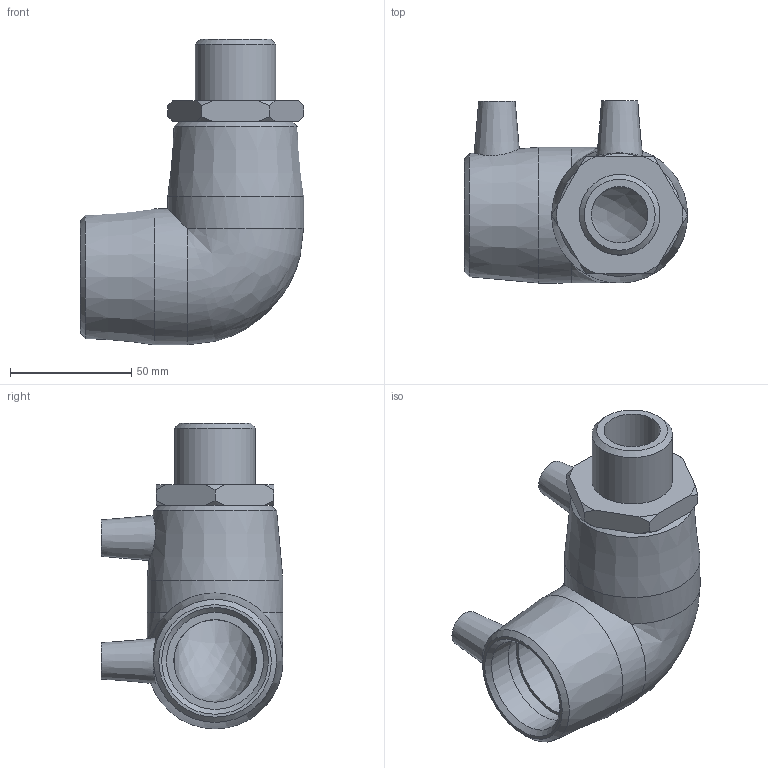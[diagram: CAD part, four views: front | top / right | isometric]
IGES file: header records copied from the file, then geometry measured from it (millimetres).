
Global section: file name: 492504040010.ipt; native system: Autodesk Inventor 2015; preprocessor: unknown; author: KIM; date: 20200202.122338; units: millimetre
Bounding box: 92 x 75 x 126 mm (x, y, z)
Volume: 196795.7 mm3; surface area: 49083.3 mm2
Topology: 1 solids, 2 shells, 59 faces, 143 edges, 96 vertices
Faces by surface type: plane 22, cone 19, revolution 10, cylinder 7, bspline 1
Full cylindrical faces by diameter (mm): 4 x2, 33.249 x1, 40 x2, 56 x2
